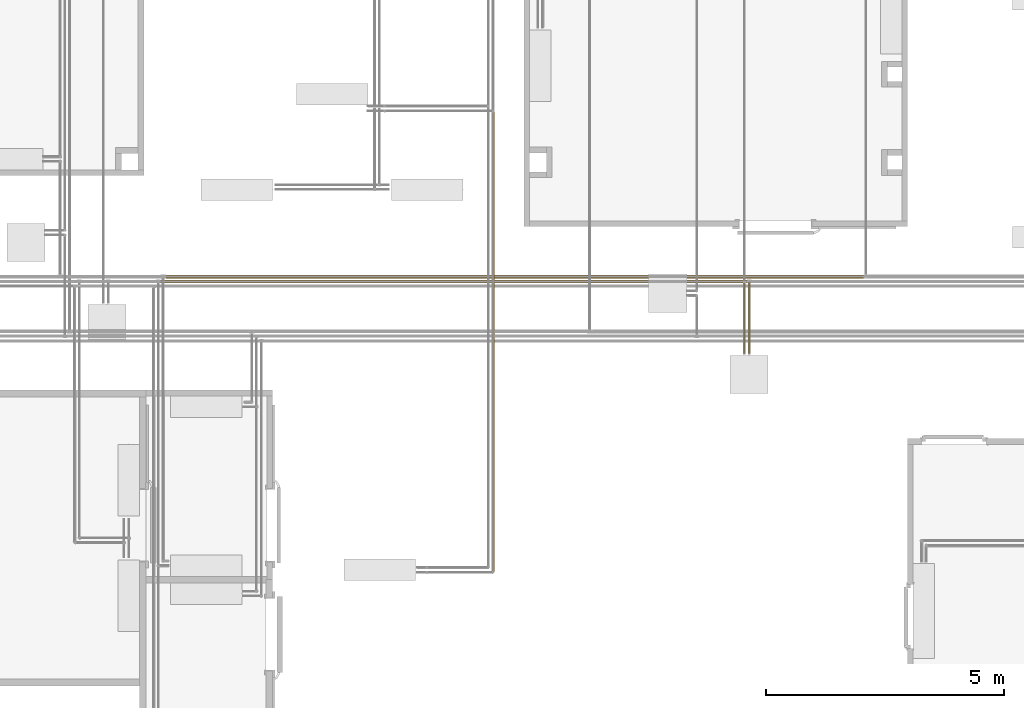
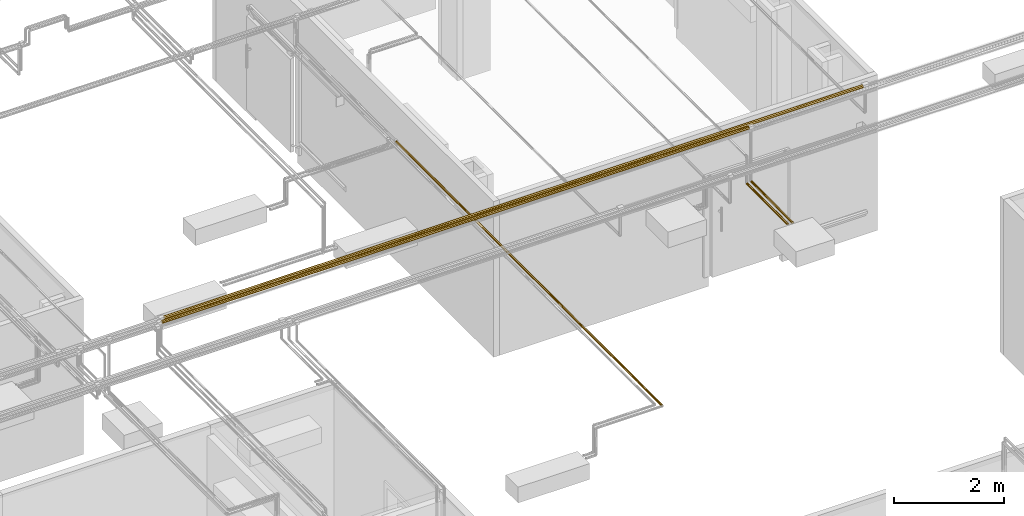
# One storey, part 110 of 652: 5 coverings.
"""IFC2X3 building model written with IfcOpenShell, lengths in millimetres."""

from ifc_helpers import new_model, entity, si_unit, converted_unit, direction, frame, origin, place, context, subcontext, project, spatial, faceted_brep, material, type_object, element, save


model = new_model("IFC2X3")

# Units and contexts
model_context = context("Model", 3, precision=0.01, world=frame((0.0, 0.0, 308426.39999999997)), true_north=direction((6.123233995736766e-17, 1.0)))
plan_context = context("Plan", 3, precision=0.01, world=frame((0.0, 0.0, 308426.39999999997)), true_north=direction((6.123233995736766e-17, 1.0)))
body_context = subcontext(model_context, "Body", "Model", "MODEL_VIEW")
ifc_project = project(units=[si_unit("LENGTHUNIT", "METRE", prefix="MILLI"), si_unit("AREAUNIT", "SQUARE_METRE"), si_unit("VOLUMEUNIT", "CUBIC_METRE"), converted_unit("PLANEANGLEUNIT", "DEGREE", entity("IfcPlaneAngleMeasure", 0.017453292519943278), si_unit("PLANEANGLEUNIT", "RADIAN"), dimensions=[0, 0, 0, 0, 0, 0, 0])], contexts=[model_context, plan_context])

# Site, building, storey
site_placement = place(None, origin())
site = spatial("IfcSite", under=ifc_project, at=site_placement, Name="Default", CompositionType="ELEMENT")
building_placement = place(site_placement, origin())
building = spatial("IfcBuilding", under=site, at=building_placement, CompositionType="ELEMENT")
storey_placement = place(building_placement, frame((0.0, 0.0, 1730.6999999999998)))
storey = spatial("IfcBuildingStorey", under=building, at=storey_placement, Name="EG_Produktion_FFB", CompositionType="ELEMENT", Elevation=1730.6999999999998)

# Coverings
ifc_material = material(Name="Dämmung - Armaflex-Schlauch")
covering_type = type_object("IfcCoveringType", Name="Rohrdämmung außen:Armaflex-Schlauch", PredefinedType="INSULATION")
covering_1_placement = place(storey_placement, frame((35725.74774999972, 60965.11722776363, 3865.1172277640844)))
element("IfcCovering", 1, at=covering_1_placement, inside=storey, type_object=covering_type, material=ifc_material, Name="Rohrdämmung außen:Armaflex-Schlauch", ObjectType="Rohrdämmung außen:Armaflex-Schlauch", PredefinedType="INSULATION", context=body_context, shape_type="Brep", body=[
    faceted_brep([(12308.504499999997, 68.17027223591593, 34.88277223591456), (12308.504499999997, 65.76620017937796, 40.68671559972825), (12308.504499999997, 63.295430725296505, 46.65168072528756), (12308.504499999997, 60.85800996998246, 52.536134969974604), (12308.504499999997, 58.42058921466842, 58.42058921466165), (12308.504499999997, 52.53613496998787, 60.85800996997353), (12308.504499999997, 46.65168072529, 63.29543072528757), (12308.504499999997, 40.76722648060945, 65.73285148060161), (12308.504499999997, 34.88277223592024, 68.17027223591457), (12308.504499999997, 29.078828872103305, 65.76620017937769), (12308.504499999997, 23.11386374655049, 63.29543072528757), (12308.504499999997, 17.22940950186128, 60.85800996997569), (12308.504499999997, 11.344955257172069, 58.42058921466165), (12308.504499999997, 8.907534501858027, 52.536134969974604), (12308.504499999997, 6.470113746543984, 46.65168072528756), (12308.504499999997, 4.032692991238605, 40.7672264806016), (12308.504499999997, 1.5952722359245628, 34.88277223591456), (12308.504499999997, 4.0326929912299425, 28.9983179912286), (12308.504499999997, 6.470113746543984, 23.113863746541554), (12308.504499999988, 8.907534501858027, 17.229409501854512), (12308.504499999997, 11.344955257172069, 11.344955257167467), (12308.504499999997, 17.22940950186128, 8.907534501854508), (12308.504499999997, 23.11386374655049, 6.470113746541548), (12308.504499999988, 28.998317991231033, 4.032692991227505), (12308.504499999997, 34.88277223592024, 1.5952722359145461), (12308.504499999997, 40.686715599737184, 3.999344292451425), (12308.504499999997, 46.65168072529, 6.470113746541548), (12308.504499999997, 52.53613496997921, 8.907534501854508), (12308.504499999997, 58.42058921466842, 11.344955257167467), (12308.504499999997, 60.85800996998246, 17.229409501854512), (12308.504499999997, 63.295430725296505, 23.113863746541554), (12308.504499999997, 65.73285148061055, 28.998317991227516), (0.0, 52.53613496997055, 8.90753450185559), (0.0, 46.65168072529, 6.470113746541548), (0.0, 40.76722648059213, 4.032692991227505), (0.0, 34.88277223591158, 1.595272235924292), (0.0, 29.078828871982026, 3.999344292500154), (0.0, 23.274885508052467, 6.403416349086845), (0.0, 17.30992038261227, 8.874185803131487), (0.0, 11.344955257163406, 11.344955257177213), (0.0, 8.907534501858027, 17.229409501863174), (0.0, 6.470113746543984, 23.113863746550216), (0.0, 4.0326929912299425, 28.99831799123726), (0.0, 1.5952722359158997, 34.88277223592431), (0.0, 3.9993442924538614, 40.686715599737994), (0.0, 6.403416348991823, 46.49065896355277), (0.0, 8.87418580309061, 52.45562408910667), (0.0, 11.344955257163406, 58.420589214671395), (0.0, 17.22940950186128, 60.85800996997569), (0.0, 23.113863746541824, 63.29543072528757), (0.0, 28.998317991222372, 65.73285148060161), (0.0, 34.88277223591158, 68.17027223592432), (0.0, 40.68671559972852, 65.76620017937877), (0.0, 46.49065896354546, 63.36212812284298), (0.0, 52.45562408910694, 60.891358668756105), (0.0, 58.420589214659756, 58.420589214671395), (0.0, 60.85800996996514, 52.53613496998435), (0.0, 63.295430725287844, 46.65168072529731), (0.0, 65.73285148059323, 40.76722648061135), (0.0, 68.17027223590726, 34.88277223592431), (0.0, 65.76620017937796, 29.07882887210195), (0.0, 63.362128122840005, 23.2748855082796), (0.0, 60.89135866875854, 17.309920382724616), (0.0, 58.420589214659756, 11.344955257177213)], [[[0, 1, 2, 3, 4, 5, 6, 7, 8, 9, 10, 11, 12, 13, 14, 15, 16, 17, 18, 19, 20, 21, 22, 23, 24, 25, 26, 27, 28, 29, 30, 31]], [[32, 33, 34, 35, 36, 37, 38, 39, 40, 41, 42, 43, 44, 45, 46, 47, 48, 49, 50, 51, 52, 53, 54, 55, 56, 57, 58, 59, 60, 61, 62, 63]], [[41, 40, 39, 20, 19, 18, 17, 16, 43, 42]], [[21, 20, 39, 38, 37, 36, 35, 24, 23, 22]], [[25, 24, 35, 34, 33, 32, 63, 28, 27, 26]], [[62, 61, 60, 59, 0, 31, 30, 29, 28, 63]], [[1, 0, 59, 58, 57, 56, 55, 4, 3, 2]], [[54, 53, 52, 51, 8, 7, 6, 5, 4, 55]], [[9, 8, 51, 50, 49, 48, 47, 12, 11, 10]], [[46, 45, 44, 43, 16, 15, 14, 13, 12, 47]]]),
])
covering_2_placement = place(storey_placement, frame((35834.44724999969, 61061.94222776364, 3938.0577722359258)))
element("IfcCovering", 2, at=covering_2_placement, inside=storey, type_object=covering_type, material=ifc_material, Name="Rohrdämmung außen:Armaflex-Schlauch", ObjectType="Rohrdämmung außen:Armaflex-Schlauch", PredefinedType="INSULATION", context=body_context, shape_type="Brep", body=[
    faceted_brep([(0.0, 1.5952722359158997, -38.05777223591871), (0.0, 4.111385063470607, -31.983338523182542), (0.0, 6.935081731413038, -25.166331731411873), (0.0, 9.604986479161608, -18.72061147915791), (0.0, 12.274891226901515, -12.27489122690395), (0.0, 18.72061147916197, -9.60498647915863), (0.0, 25.166331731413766, -6.9350817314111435), (0.0, 31.983338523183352, -4.111385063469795), (0.0, 38.057772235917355, -1.5952722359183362), (0.0, 44.13220594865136, -4.111385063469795), (0.0, 50.94921274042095, -6.9350817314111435), (0.0, 57.394932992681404, -9.60498647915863), (0.0, 63.8406532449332, -12.27489122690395), (0.0, 66.5105579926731, -18.720611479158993), (0.0, 69.18046274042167, -25.166331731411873), (0.0, 72.00415940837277, -31.983338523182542), (0.0, 74.52027223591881, -38.05777223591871), (0.0, 72.00415940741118, -44.13220595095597), (0.0, 69.18046274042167, -50.94921274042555), (0.0, 66.51055799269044, -57.39493299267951), (0.0, 63.8406532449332, -63.84065324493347), (0.0, 57.394932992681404, -66.51055799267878), (0.0, 50.94921274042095, -69.18046274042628), (0.0, 44.13220594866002, -72.00415940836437), (0.0, 38.057772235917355, -74.52027223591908), (0.0, 31.98333852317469, -72.00415940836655), (0.0, 25.166331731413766, -69.18046274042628), (0.0, 18.72061147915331, -66.51055799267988), (0.0, 12.274891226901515, -63.84065324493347), (0.0, 9.604986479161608, -57.39493299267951), (0.0, 6.935081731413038, -50.94921274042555), (0.0, 4.111385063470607, -44.13220594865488), (14641.10550000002, 18.720611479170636, -66.5105579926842), (14641.10550000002, 25.166331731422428, -69.18046274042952), (14641.10550000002, 31.98333852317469, -72.00415940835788), (14641.10550000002, 38.057772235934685, -74.52027223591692), (14641.10550000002, 44.13220594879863, -72.00415940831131), (14641.10550000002, 50.20663966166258, -69.48804658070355), (14641.10550000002, 57.02364645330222, -66.6643499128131), (14641.10550000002, 63.84065324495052, -63.8406532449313), (14641.10550000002, 66.51055799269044, -57.394932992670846), (14641.10550000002, 69.18046274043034, -50.94921274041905), (14641.10550000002, 72.00415940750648, -44.13220595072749), (14641.10550000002, 74.52027223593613, -38.057772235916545), (14641.10550000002, 72.0041594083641, -31.98333852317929), (14641.10550000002, 69.48804658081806, -25.90890481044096), (14641.10550000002, 66.66434991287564, -19.091898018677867), (14641.10550000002, 63.84065324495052, -12.274891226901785), (14641.10550000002, 57.394932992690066, -9.604986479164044), (14641.10550000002, 50.94921274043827, -6.935081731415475), (14641.10550000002, 44.132205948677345, -4.111385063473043), (14641.10550000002, 38.057772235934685, -1.5952722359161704), (14641.10550000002, 31.983338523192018, -4.111385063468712), (14641.10550000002, 25.90890481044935, -6.627497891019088), (14641.10550000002, 19.091898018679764, -9.451194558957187), (14641.10550000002, 12.27489122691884, -12.274891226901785), (14641.10550000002, 9.604986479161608, -18.72061147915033), (14641.10550000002, 6.935081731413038, -25.166331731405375), (14641.10550000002, 4.111385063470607, -31.983338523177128), (14641.10550000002, 1.5952722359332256, -38.057772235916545), (14641.10550000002, 4.11138506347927, -44.13220594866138), (14641.10550000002, 6.627497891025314, -50.206639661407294), (14641.10550000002, 9.451194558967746, -57.023646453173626), (14641.10550000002, 12.27489122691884, -63.8406532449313), (7894.1060149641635, 74.52027223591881, -38.057772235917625), (7320.552751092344, 68.37523297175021, -58.31525186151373), (7894.217248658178, 38.057772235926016, -74.52027223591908), (6747.3531659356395, 38.057772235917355, -74.52027223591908), (7894.106024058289, 1.5952722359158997, -38.057772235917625), (6746.999475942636, 1.5952722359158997, -38.057772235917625), (7320.552750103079, 17.8002926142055, -68.3752329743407), (7894.106024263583, 38.057772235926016, -1.5952722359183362), (6746.999475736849, 38.057772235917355, -1.5952722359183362), (7320.552750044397, 7.740311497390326, -17.80029261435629), (7320.552750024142, 58.315251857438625, -7.740311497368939)], [[[0, 1, 2, 3, 4, 5, 6, 7, 8, 9, 10, 11, 12, 13, 14, 15, 16, 17, 18, 19, 20, 21, 22, 23, 24, 25, 26, 27, 28, 29, 30, 31]], [[32, 33, 34, 35, 36, 37, 38, 39, 40, 41, 42, 43, 44, 45, 46, 47, 48, 49, 50, 51, 52, 53, 54, 55, 56, 57, 58, 59, 60, 61, 62, 63]], [[17, 16, 64, 43, 42, 41, 18]], [[65, 41, 40, 39]], [[65, 20, 19, 18]], [[38, 37, 36, 35, 66, 67, 24, 23, 22, 21, 20, 39]], [[65, 18, 41]], [[20, 65, 39]], [[30, 29, 28, 63, 62, 61, 60, 59, 68, 69, 0, 31]], [[70, 28, 27, 26]], [[26, 33, 70]], [[70, 33, 32, 63]], [[34, 33, 26, 25, 24, 67, 66, 35]], [[28, 70, 63]], [[6, 5, 4, 55, 54, 53, 52, 51, 71, 72, 8, 7]], [[73, 4, 3, 2]], [[2, 57, 73]], [[73, 57, 56, 55]], [[58, 57, 2, 1, 0, 69, 68, 59]], [[4, 73, 55]], [[14, 13, 12, 47, 46, 45, 44, 43, 64, 16, 15]], [[74, 12, 11, 10]], [[10, 49, 74]], [[74, 49, 48, 47]], [[50, 49, 10, 9, 8, 72, 71, 51]], [[12, 74, 47]]]),
])
covering_3_placement = place(storey_placement, frame((42679.64222776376, 54908.39153550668, 3274.6422277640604)))
element("IfcCovering", 3, at=covering_3_placement, inside=storey, type_object=covering_type, material=ifc_material, Name="Rohrdämmung außen:Armaflex-Schlauch", ObjectType="Rohrdämmung außen:Armaflex-Schlauch", PredefinedType="INSULATION", context=body_context, shape_type="Brep", body=[
    faceted_brep([(15.488689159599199, 1.5952722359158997, 3.741629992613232), (20.423230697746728, 1.5952722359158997, 2.6684511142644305), (25.35777223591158, 1.5952722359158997, 1.595272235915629), (30.261525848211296, 1.5952722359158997, 3.626473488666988), (33.759084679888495, 1.5952722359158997, 5.075209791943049), (37.95974090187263, 1.5952722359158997, 6.8151785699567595), (42.160397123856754, 1.5952722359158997, 8.55514734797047), (43.90036590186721, 1.5952722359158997, 12.755803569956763), (45.640334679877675, 1.5952722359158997, 16.956459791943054), (47.089070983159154, 1.5952722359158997, 20.454018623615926), (49.12027223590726, 1.5952722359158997, 25.35777223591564), (47.089070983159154, 1.5952722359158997, 30.261525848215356), (45.640334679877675, 1.5952722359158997, 33.759084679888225), (43.90036590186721, 1.5952722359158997, 37.95974090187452), (42.160397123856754, 1.5952722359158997, 42.16039712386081), (37.95974090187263, 1.5952722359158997, 43.90036590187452), (33.759084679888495, 1.5952722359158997, 45.640334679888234), (30.261525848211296, 1.5952722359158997, 47.08907098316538), (25.35777223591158, 1.5952722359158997, 49.12027223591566), (20.423230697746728, 1.5952722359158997, 48.04709335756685), (15.488689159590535, 1.5952722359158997, 46.97391447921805), (11.448105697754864, 1.5952722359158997, 43.95116498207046), (7.407522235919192, 1.5952722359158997, 40.92841548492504), (7.407522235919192, 1.5952722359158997, 9.787128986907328), (11.448105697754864, 1.5952722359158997, 6.764379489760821), (38.72053320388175, 9646.959214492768, 5.708522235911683), (11.995011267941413, 9646.959214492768, 5.708522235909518), (8.175620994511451, 9646.959214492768, 9.97455793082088), (4.356230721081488, 9646.959214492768, 14.240593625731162), (2.9757514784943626, 9646.959214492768, 19.799182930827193), (1.5952722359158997, 9646.959214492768, 25.35777223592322), (3.3352410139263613, 9646.959214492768, 29.55842845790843), (5.075209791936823, 9646.959214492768, 33.75908467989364), (6.815178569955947, 9646.959214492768, 37.95974090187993), (8.55514734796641, 9646.959214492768, 42.16039712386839), (12.755803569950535, 9646.959214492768, 43.90036590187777), (16.956459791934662, 9646.959214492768, 45.6403346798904), (20.4540186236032, 9646.95921449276, 47.08907098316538), (25.35777223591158, 9646.959214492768, 49.12027223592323), (30.26152584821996, 9646.959214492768, 47.0890709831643), (35.16527946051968, 9646.959214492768, 45.05786973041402), (42.160397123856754, 9646.959214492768, 42.16039712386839), (43.90036590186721, 9646.959214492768, 37.95974090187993), (45.640334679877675, 9646.959214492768, 33.75908467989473), (47.089070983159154, 9646.959214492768, 30.26152584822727), (49.12027223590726, 9646.959214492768, 25.35777223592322), (47.7397929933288, 9646.959214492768, 19.799182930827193), (46.35931375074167, 9646.959214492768, 14.240593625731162), (42.53992347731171, 9646.959214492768, 9.97455793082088), (1.5952722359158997, 5454.108346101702, 25.357772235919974), (3.095705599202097, 5.907088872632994, 17.047730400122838), (2.34548891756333, 6.657305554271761, 21.202751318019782), (5.251613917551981, 3.751180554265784, 13.417429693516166), (18.367024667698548, 9643.897545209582, 2.6468529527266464), (25.35777223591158, 9642.84596449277, 1.595272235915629), (25.35777223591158, 4196.151693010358, 1.595272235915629), (1.5952722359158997, 7.407522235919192, 25.35777223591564), (1.5952722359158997, 4200.258399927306, 25.35777223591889), (32.348519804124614, 9643.897545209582, 2.6468529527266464), (49.12027223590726, 4200.258399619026, 25.35777223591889), (49.12027223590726, 5448.296087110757, 25.357772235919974), (45.11556889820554, 4824.277243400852, 38.55950989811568), (25.35777223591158, 5448.296086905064, 49.12027223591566), (25.35777223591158, 4200.2583998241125, 49.12027223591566), (4.927669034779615, 4492.279807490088, 37.493145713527), (3.095705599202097, 5.907088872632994, 33.66781407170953), (2.5579227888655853, 6.444871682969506, 30.689342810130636), (5.251613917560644, 3.751180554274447, 37.298114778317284)], [[[0, 1, 2, 3, 4, 5, 6, 7, 8, 9, 10, 11, 12, 13, 14, 15, 16, 17, 18, 19, 20, 21, 22, 23, 24]], [[25, 26, 27, 28, 29, 30, 31, 32, 33, 34, 35, 36, 37, 38, 39, 40, 41, 42, 43, 44, 45, 46, 47, 48]], [[49, 30, 29]], [[29, 50, 51]], [[50, 29, 28]], [[50, 28, 52]], [[1, 0, 53]], [[26, 0, 24]], [[1, 54, 55, 2]], [[53, 0, 26]], [[26, 24, 27]], [[54, 1, 53]], [[28, 27, 52]], [[52, 27, 23]], [[51, 56, 57, 49]], [[27, 24, 23]], [[49, 29, 51]], [[4, 25, 6, 5]], [[47, 8, 7]], [[58, 3, 55]], [[46, 8, 47]], [[25, 4, 58]], [[9, 8, 46]], [[58, 55, 54]], [[59, 9, 46]], [[46, 45, 60, 59]], [[25, 48, 6]], [[3, 2, 55]], [[3, 58, 4]], [[59, 10, 9]], [[7, 48, 47]], [[7, 6, 48]], [[12, 11, 10, 59, 60, 45, 44, 43]], [[61, 14, 13, 12]], [[12, 43, 61]], [[61, 43, 42, 41]], [[40, 39, 38, 62, 63, 18, 17, 16, 15, 14, 41]], [[14, 61, 41]], [[36, 19, 37]], [[34, 64, 22]], [[62, 37, 19]], [[20, 35, 21]], [[35, 20, 36]], [[32, 65, 64]], [[57, 66, 31]], [[31, 30, 49, 57]], [[31, 66, 65]], [[64, 65, 67, 22]], [[31, 65, 32]], [[64, 34, 33, 32]], [[35, 34, 21]], [[57, 56, 66]], [[19, 18, 63, 62]], [[21, 34, 22]], [[19, 36, 20]], [[62, 38, 37]], [[50, 52, 23, 22, 67, 65, 66, 56, 51]], [[53, 26, 25, 58, 54]]]),
])
covering_4_placement = place(storey_placement, frame((48054.6422277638, 59482.049749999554, 2674.6422277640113)))
element("IfcCovering", 4, at=covering_4_placement, inside=storey, type_object=covering_type, material=ifc_material, Name="Rohrdämmung außen:Armaflex-Schlauch", ObjectType="Rohrdämmung außen:Armaflex-Schlauch", PredefinedType="INSULATION", context=body_context, shape_type="Brep", body=[
    faceted_brep([(1.5952722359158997, 1500.0, 25.357772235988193), (2.6684511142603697, 1500.0, 30.29231377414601), (3.7416299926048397, 1500.0, 35.226855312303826), (6.764379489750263, 1500.0, 39.26743877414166), (9.78712898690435, 1500.0, 43.30802223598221), (40.92841548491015, 1500.0, 43.308022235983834), (43.951164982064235, 1500.0, 39.267438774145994), (46.97391447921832, 1500.0, 35.22685531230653), (48.047093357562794, 1500.0, 30.292313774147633), (49.12027223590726, 1500.0, 25.357772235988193), (47.3803034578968, 1500.0, 21.1571160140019), (45.64033467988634, 1500.0, 16.956459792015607), (43.90036590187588, 1500.0, 12.755803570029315), (42.160397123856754, 1500.0, 8.555147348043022), (37.95974090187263, 1500.0, 6.815178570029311), (33.759084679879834, 1500.0, 5.075209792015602), (29.558428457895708, 1500.0, 3.335241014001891), (25.35777223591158, 1500.0, 1.5952722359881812), (21.96818443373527, 1500.0, 2.9992854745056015), (16.956459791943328, 1500.0, 5.075209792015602), (12.755803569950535, 1500.0, 6.815178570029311), (8.55514734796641, 1500.0, 8.555147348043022), (6.815178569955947, 1500.0, 12.755803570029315), (5.075209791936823, 1500.0, 16.956459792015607), (3.3352410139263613, 1500.0, 21.1571160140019), (1.5952722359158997, 0.0, 25.35777223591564), (4.403298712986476, 0.0, 18.578596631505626), (6.479223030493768, 0.0, 13.566871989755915), (8.55514734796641, 0.0, 8.55514734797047), (12.755803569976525, 0.0, 6.81517857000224), (16.95645979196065, 0.0, 5.075209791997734), (21.157116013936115, 0.0, 3.335241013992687), (25.35777223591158, 0.0, 1.595272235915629), (32.1369478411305, 0.0, 4.40329871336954), (37.148672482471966, 0.0, 6.479223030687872), (42.160397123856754, 0.0, 8.55514734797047), (43.900365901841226, 0.0, 12.755803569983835), (45.640334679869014, 0.0, 16.956459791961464), (47.38030345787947, 0.0, 21.157116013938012), (49.12027223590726, 0.0, 25.35777223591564), (47.71625899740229, 0.0, 28.747360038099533), (45.64033467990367, 0.0, 33.759084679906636), (43.9003659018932, 0.0, 37.95974090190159), (42.160397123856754, 0.0, 42.16039712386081), (37.95974090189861, 0.0, 43.900365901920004), (33.759084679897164, 0.0, 45.64033467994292), (29.55842845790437, 0.0, 47.38030345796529), (25.35777223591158, 0.0, 49.12027223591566), (21.15711601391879, 0.0, 47.38030345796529), (16.956459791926, 0.0, 45.64033467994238), (12.755803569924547, 0.0, 43.900365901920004), (8.55514734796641, 0.0, 42.16039712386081), (6.815178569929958, 0.0, 37.95974090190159), (5.075209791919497, 0.0, 33.759084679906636), (3.3352410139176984, 0.0, 29.558428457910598), (21.202751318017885, 1494.9379666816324, 48.37005555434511), (13.41742969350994, 1497.8440916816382, 45.463930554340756), (17.04773040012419, 1495.6881833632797, 47.619838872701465), (25.35777223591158, 1494.1877499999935, 49.1202722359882), (29.512793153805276, 1494.9379666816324, 48.37005555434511), (33.66781407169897, 1495.6881833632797, 47.619838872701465), (37.29811477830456, 1497.8440916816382, 45.46393055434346)], [[[0, 1, 2, 3, 4, 5, 6, 7, 8, 9, 10, 11, 12, 13, 14, 15, 16, 17, 18, 19, 20, 21, 22, 23, 24]], [[25, 26, 27, 28, 29, 30, 31, 32, 33, 34, 35, 36, 37, 38, 39, 40, 41, 42, 43, 44, 45, 46, 47, 48, 49, 50, 51, 52, 53, 54]], [[37, 36, 35, 13, 12, 11, 10, 9, 39, 38]], [[33, 32, 17, 16, 15, 14, 13, 35, 34]], [[30, 29, 28, 21, 20, 19, 18, 17, 32, 31]], [[21, 28, 27, 26, 25, 0, 24, 23, 22]], [[3, 52, 51]], [[25, 54, 0]], [[53, 2, 1]], [[53, 52, 2]], [[47, 55, 48]], [[4, 50, 56]], [[57, 49, 48]], [[1, 54, 53]], [[49, 57, 56]], [[2, 52, 3]], [[55, 57, 48]], [[0, 54, 1]], [[51, 4, 3]], [[58, 55, 47]], [[50, 4, 51]], [[50, 49, 56]], [[47, 59, 58]], [[8, 41, 40]], [[59, 47, 46]], [[60, 45, 61]], [[6, 43, 42]], [[43, 6, 5]], [[41, 8, 7]], [[5, 44, 43]], [[45, 60, 46]], [[40, 9, 8]], [[5, 61, 44]], [[42, 7, 6]], [[42, 41, 7]], [[46, 60, 59]], [[40, 39, 9]], [[61, 45, 44]], [[5, 4, 56, 57, 55, 58, 59, 60, 61]]]),
])
covering_5_placement = place(storey_placement, frame((47954.64222776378, 59482.049749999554, 2674.6422277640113)))
element("IfcCovering", 5, at=covering_5_placement, inside=storey, type_object=covering_type, material=ifc_material, Name="Rohrdämmung außen:Armaflex-Schlauch", ObjectType="Rohrdämmung außen:Armaflex-Schlauch", PredefinedType="INSULATION", context=body_context, shape_type="Brep", body=[
    faceted_brep([(1.5952722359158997, 1482.0497500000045, 25.357772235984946), (2.6684511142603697, 1482.0497500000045, 30.292313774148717), (3.7416299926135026, 1482.0497500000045, 35.22685531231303), (6.764379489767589, 1482.0497500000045, 39.26743877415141), (9.787128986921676, 1482.0497500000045, 43.30802223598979), (40.928415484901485, 1482.0497500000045, 43.30802223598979), (43.95116498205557, 1482.0497500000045, 39.26743877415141), (46.97391447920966, 1482.0497500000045, 35.22685531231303), (48.047093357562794, 1482.0497500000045, 30.292313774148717), (49.12027223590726, 1482.0497500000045, 25.357772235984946), (47.3803034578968, 1482.0497500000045, 21.157116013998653), (45.64033467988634, 1482.0497500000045, 16.95645979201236), (43.90036590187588, 1482.0497500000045, 12.755803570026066), (42.160397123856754, 1482.0497500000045, 8.555147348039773), (37.95974090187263, 1482.0497500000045, 6.815178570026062), (33.759084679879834, 1482.0497500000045, 5.075209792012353), (29.558428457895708, 1482.0497500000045, 3.3352410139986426), (25.35777223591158, 1482.0497500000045, 1.5952722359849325), (21.92713051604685, 1482.0497500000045, 3.0162905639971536), (16.956459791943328, 1482.0497500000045, 5.075209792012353), (12.755803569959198, 1482.0497500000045, 6.815178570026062), (8.55514734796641, 1482.0497500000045, 8.555147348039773), (6.815178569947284, 1482.0497500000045, 12.755803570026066), (5.075209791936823, 1482.0497500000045, 16.95645979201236), (3.3352410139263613, 1482.0497500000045, 21.157116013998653), (1.5952722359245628, 0.0, 25.357772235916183), (4.4373088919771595, 0.0, 18.496488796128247), (6.49622811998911, 0.0, 13.525818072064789), (8.55514734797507, 0.0, 8.55514734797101), (12.755803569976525, 0.0, 6.815178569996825), (16.95645979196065, 0.0, 5.075209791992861), (21.15711601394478, 0.0, 3.3352410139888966), (25.357772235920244, 0.0, 1.5952722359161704), (32.21905567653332, 0.0, 4.437308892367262), (37.18972640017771, 0.0, 6.4962281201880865), (42.160397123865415, 0.0, 8.55514734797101), (43.90036590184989, 0.0, 12.755803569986), (45.640334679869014, 0.0, 16.956459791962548), (47.38030345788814, 0.0, 21.157116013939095), (49.12027223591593, 0.0, 25.357772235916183), (47.69925390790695, 0.0, 28.788413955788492), (45.64033467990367, 0.0, 33.75908467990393), (43.9003659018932, 0.0, 37.95974090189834), (42.160397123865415, 0.0, 42.16039712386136), (37.95974090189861, 0.0, 43.90036590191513), (33.759084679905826, 0.0, 45.64033467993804), (29.558428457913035, 0.0, 47.3803034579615), (25.357772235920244, 0.0, 49.1202722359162), (21.157116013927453, 0.0, 47.38030345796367), (16.956459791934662, 0.0, 45.64033467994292), (12.75580356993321, 0.0, 43.90036590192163), (8.55514734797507, 0.0, 42.16039712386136), (6.815178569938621, 0.0, 37.9597409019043), (5.07520979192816, 0.0, 33.75908467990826), (3.3352410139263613, 0.0, 29.55842845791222), (21.20275131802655, 1476.9877166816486, 48.37005555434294), (13.417429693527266, 1479.8938416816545, 45.46393055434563), (17.047730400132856, 1477.737933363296, 47.619838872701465), (25.35777223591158, 1476.2375000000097, 49.120272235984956), (29.51279315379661, 1476.9877166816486, 48.37005555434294), (33.66781407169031, 1477.737933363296, 47.619838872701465), (37.2981147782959, 1479.8938416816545, 45.46393055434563)], [[[0, 1, 2, 3, 4, 5, 6, 7, 8, 9, 10, 11, 12, 13, 14, 15, 16, 17, 18, 19, 20, 21, 22, 23, 24]], [[25, 26, 27, 28, 29, 30, 31, 32, 33, 34, 35, 36, 37, 38, 39, 40, 41, 42, 43, 44, 45, 46, 47, 48, 49, 50, 51, 52, 53, 54]], [[37, 36, 35, 13, 12, 11, 10, 9, 39, 38]], [[33, 32, 17, 16, 15, 14, 13, 35, 34]], [[30, 29, 28, 21, 20, 19, 18, 17, 32, 31]], [[21, 28, 27, 26, 25, 0, 24, 23, 22]], [[3, 52, 51]], [[25, 54, 0]], [[53, 2, 1]], [[53, 52, 2]], [[47, 55, 48]], [[4, 50, 56]], [[57, 49, 48]], [[1, 54, 53]], [[49, 57, 56]], [[2, 52, 3]], [[55, 57, 48]], [[0, 54, 1]], [[51, 4, 3]], [[58, 55, 47]], [[50, 4, 51]], [[50, 49, 56]], [[47, 59, 58]], [[8, 41, 40]], [[59, 47, 46]], [[60, 45, 61]], [[6, 43, 42]], [[43, 6, 5]], [[41, 8, 7]], [[5, 44, 43]], [[45, 60, 46]], [[40, 9, 8]], [[5, 61, 44]], [[42, 7, 6]], [[42, 41, 7]], [[46, 60, 59]], [[40, 39, 9]], [[61, 45, 44]], [[60, 61, 5, 4, 56, 57, 55, 58, 59]]]),
])

save(model, "model.ifc")
